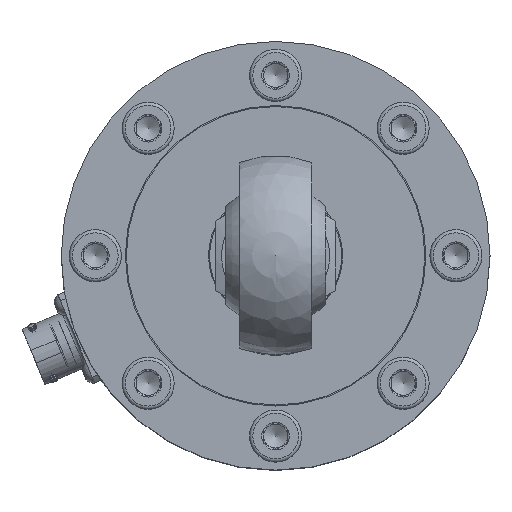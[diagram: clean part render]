
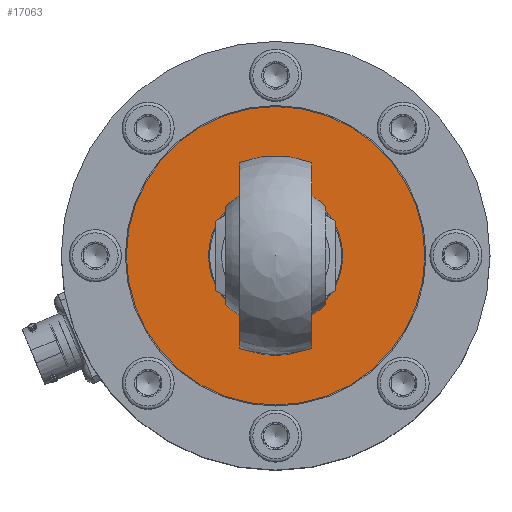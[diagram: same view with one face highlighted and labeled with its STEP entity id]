
A CAD part, top view. The second image highlights one B-rep face of the part: STEP entity #17063.
In plain terms, the highlighted planar face has unit normal (0, 0, 1).
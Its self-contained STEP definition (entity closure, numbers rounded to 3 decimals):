
#752=FACE_BOUND('',#5359,.T.);
#999=PLANE('',#18438);
#4305=FACE_OUTER_BOUND('',#5358,.T.);
#5358=EDGE_LOOP('',(#13302));
#5359=EDGE_LOOP('',(#13303));
#6501=CIRCLE('',#18439,37.25);
#6502=CIRCLE('',#18440,16.75);
#7721=VERTEX_POINT('',#29058);
#7722=VERTEX_POINT('',#29060);
#9787=EDGE_CURVE('',#7721,#7721,#6501,.T.);
#9788=EDGE_CURVE('',#7722,#7722,#6502,.T.);
#13302=ORIENTED_EDGE('',*,*,#9787,.T.);
#13303=ORIENTED_EDGE('',*,*,#9788,.T.);
#17063=ADVANCED_FACE('',(#4305,#752),#999,.T.);
#18438=AXIS2_PLACEMENT_3D('',#29057,#21383,#21384);
#18439=AXIS2_PLACEMENT_3D('',#29059,#21385,#21386);
#18440=AXIS2_PLACEMENT_3D('',#29061,#21387,#21388);
#21383=DIRECTION('center_axis',(0.,0.,1.));
#21384=DIRECTION('ref_axis',(1.,0.,0.));
#21385=DIRECTION('center_axis',(0.,0.,1.));
#21386=DIRECTION('ref_axis',(1.,0.,0.));
#21387=DIRECTION('center_axis',(0.,0.,-1.));
#21388=DIRECTION('ref_axis',(1.,0.,0.));
#29057=CARTESIAN_POINT('Origin',(0.,0.,29.5));
#29058=CARTESIAN_POINT('',(-37.25,0.,29.5));
#29059=CARTESIAN_POINT('Origin',(0.,0.,29.5));
#29060=CARTESIAN_POINT('',(-16.75,0.,29.5));
#29061=CARTESIAN_POINT('Origin',(0.,0.,29.5));
